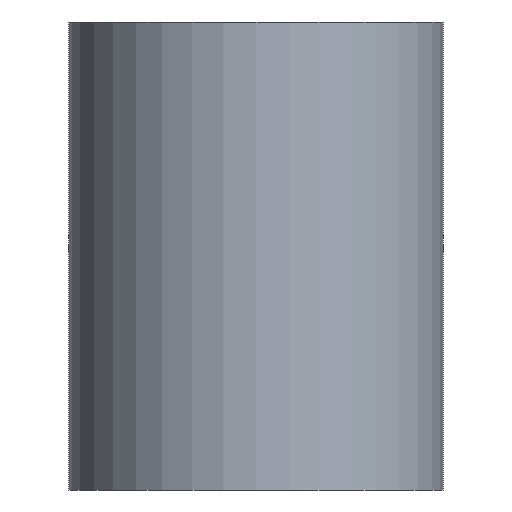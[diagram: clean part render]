
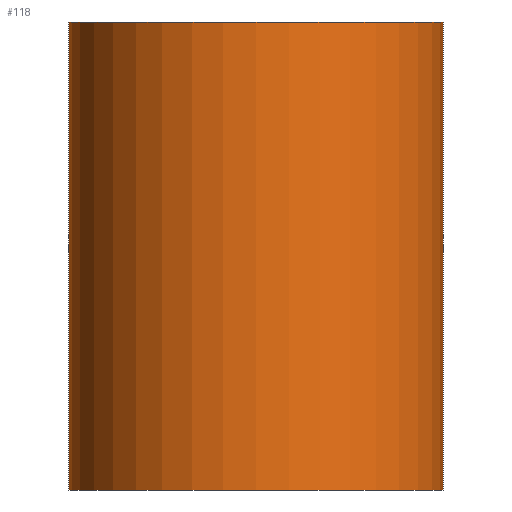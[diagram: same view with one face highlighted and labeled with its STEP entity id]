
A CAD part, front view. The second image highlights one B-rep face of the part: STEP entity #118.
In plain terms, the highlighted cylindrical face has radius 20 mm (diameter 40 mm), a partial arc.
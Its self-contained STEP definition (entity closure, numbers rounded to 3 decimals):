
#100=CYLINDRICAL_SURFACE('',#199,20.);
#104=FACE_OUTER_BOUND('',#132,.T.);
#107=LINE('',#257,#111);
#108=LINE('',#258,#112);
#111=VECTOR('',#228,1.);
#112=VECTOR('',#229,1.);
#118=ADVANCED_FACE('',(#104),#100,.T.);
#132=EDGE_LOOP('',(#153,#154,#155,#156));
#153=ORIENTED_EDGE('',*,*,#175,.F.);
#154=ORIENTED_EDGE('',*,*,#174,.T.);
#155=ORIENTED_EDGE('',*,*,#176,.T.);
#156=ORIENTED_EDGE('',*,*,#165,.F.);
#157=VERTEX_POINT('',#236);
#158=VERTEX_POINT('',#237);
#163=VERTEX_POINT('',#253);
#164=VERTEX_POINT('',#254);
#165=EDGE_CURVE('',#157,#158,#177,.T.);
#174=EDGE_CURVE('',#164,#163,#184,.T.);
#175=EDGE_CURVE('',#164,#157,#107,.T.);
#176=EDGE_CURVE('',#163,#158,#108,.T.);
#177=CIRCLE('',#186,20.);
#184=CIRCLE('',#196,20.);
#186=AXIS2_PLACEMENT_3D('',#235,#202,#203);
#196=AXIS2_PLACEMENT_3D('',#255,#224,#225);
#199=AXIS2_PLACEMENT_3D('',#260,#232,#233);
#202=DIRECTION('',(0.,0.,1.));
#203=DIRECTION('',(0.,1.,0.));
#224=DIRECTION('',(0.,0.,1.));
#225=DIRECTION('',(0.,1.,0.));
#228=DIRECTION('',(0.,0.,1.));
#229=DIRECTION('',(0.,0.,1.));
#232=DIRECTION('',(0.,0.,1.));
#233=DIRECTION('',(0.,-1.,0.));
#235=CARTESIAN_POINT('',(0.,0.,50.));
#236=CARTESIAN_POINT('',(-20.,0.,50.));
#237=CARTESIAN_POINT('',(20.,0.,50.));
#253=CARTESIAN_POINT('',(20.,0.,0.));
#254=CARTESIAN_POINT('',(-20.,0.,0.));
#255=CARTESIAN_POINT('',(0.,0.,0.));
#257=CARTESIAN_POINT('',(-20.,0.,50.));
#258=CARTESIAN_POINT('',(20.,0.,50.));
#260=CARTESIAN_POINT('',(0.,0.,0.));
